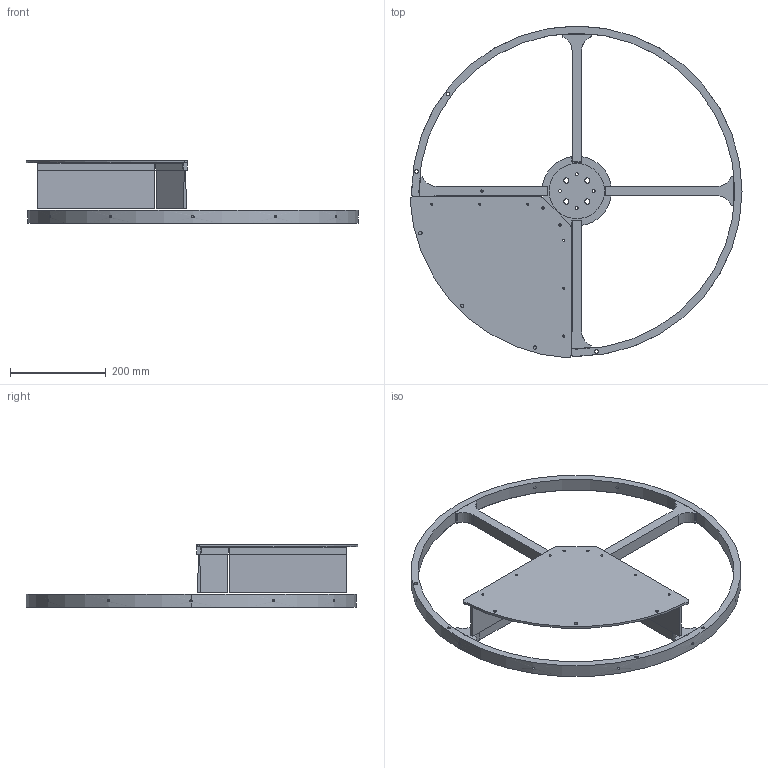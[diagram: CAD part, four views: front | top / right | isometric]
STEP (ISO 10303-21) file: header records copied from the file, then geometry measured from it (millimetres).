
FILE_DESCRIPTION (( 'STEP AP214' ), '1' );
FILE_NAME ('GM000473.STEP', '2021-09-17T08:28:14', ( '' ), ( '' ), 'SwSTEP 2.0', 'SolidWorks 2020', '' );
FILE_SCHEMA (( 'AUTOMOTIVE_DESIGN' ));
Length unit declared in the file: millimetre
Products named in the file (8): PD002294; GM000473; PD001939; PD001100; PD001760; SM000067; PD001759; SM000068
Assembly tree (10 placements, depth 2):
  GM000473
    PD001759
    PD001939
    PD001760  x3
    PD001100
    PD002294
    SM000068  x2
    SM000067
Bounding box: 693.56 x 693.56 x 131.5 mm (x, y, z)
Volume: 2493204.7 mm3; surface area: 666621 mm2
Topology: 10 solids, 10 shells, 369 faces, 1025 edges, 688 vertices
Faces by surface type: plane 201, cylinder 166, cone 2
Entity records: 10213 total; most frequent: CARTESIAN_POINT 2055, DIRECTION 1577, ORIENTED_EDGE 1558, EDGE_CURVE 779, AXIS2_PLACEMENT_3D 558, VERTEX_POINT 524, VECTOR 461, LINE 461
